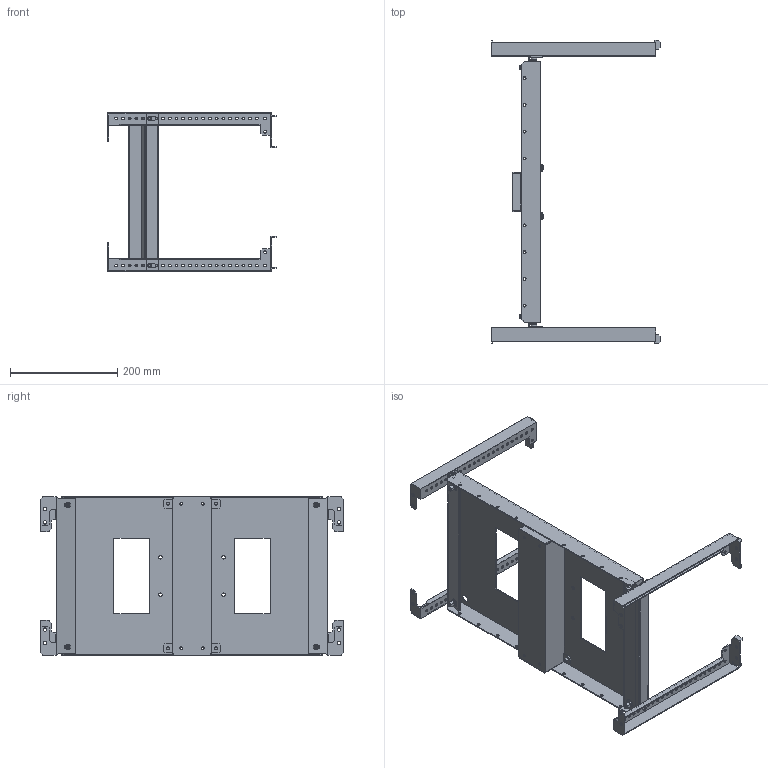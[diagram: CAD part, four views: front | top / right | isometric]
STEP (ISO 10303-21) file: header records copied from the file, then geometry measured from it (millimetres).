
FILE_DESCRIPTION (( 'STEP AP214' ), '1' );
FILE_NAME ('FO-00-HIW-030-060 Êîìïëåêò ãîðèçîíòàëüíîé óñòàíîâêè ARMAT MCCB òèïîðàçìåð H I âûêàòíîãî èñïîëíåíèÿ 3II4P 300õ600 ìì.STEP', '2025-07-16T07:19:43', ( '' ), ( '' ), 'SwSTEP 2.0', 'SolidWorks 2023', '' );
FILE_SCHEMA (( 'AUTOMOTIVE_DESIGN' ));
Length unit declared in the file: millimetre
Products named in the file (5): Траверса горизонтальнаяD; Панель монтажная H I выкатная 300x600; Винты DIN 912 4xM6x20 300x600; FO-00-HIW-030-060 Комплект горизонтальной установки ARMAT MCCB типоразмер H I выкатного исполнения 3II4P 300х600 мм; Траверса горизонтальная
Assembly tree (6 placements, depth 2):
  FO-00-HIW-030-060 Комплект горизонтальной установки ARMAT MCCB типоразмер H I выкатного исполнения 3II4P 300х600 мм
    Панель монтажная H I выкатная 300x600
    Винты DIN 912 4xM6x20 300x600
    Траверса горизонтальная  x2
    Траверса горизонтальнаяD  x2
Bounding box: 314.5 x 565.63 x 297 mm (x, y, z)
Volume: 670202.4 mm3; surface area: 713835.8 mm2
Topology: 9 solids, 17 shells, 1250 faces, 3380 edges, 2220 vertices
Faces by surface type: cylinder 568, plane 562, cone 72, torus 48
Entity records: 33571 total; most frequent: CARTESIAN_POINT 6635, DIRECTION 5756, ORIENTED_EDGE 5428, EDGE_CURVE 2714, AXIS2_PLACEMENT_3D 2089, VERTEX_POINT 1776, LINE 1578, VECTOR 1578
